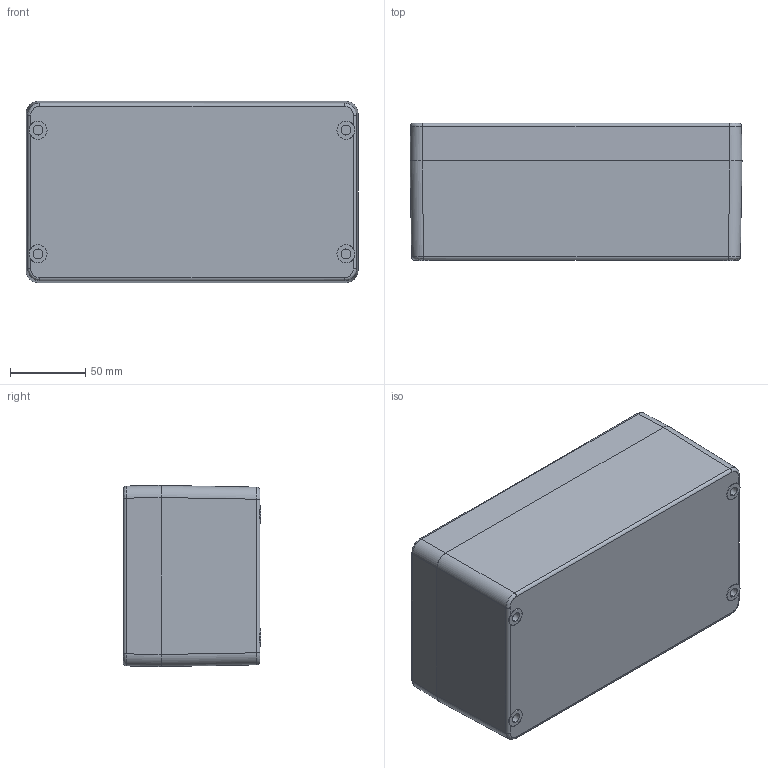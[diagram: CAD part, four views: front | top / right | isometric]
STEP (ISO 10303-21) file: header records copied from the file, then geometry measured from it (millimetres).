
FILE_DESCRIPTION (( 'STEP AP203' ), '1' );
FILE_NAME ('exe22012090.STEP', '2013-06-05T17:31:08', ( 'User' ), ( 'Pentair Inc' ), 'SwSTEP 2.0', 'SolidWorks 2010', '' );
FILE_SCHEMA (( 'CONFIG_CONTROL_DESIGN' ));
Length unit declared in the file: inch
Products named in the file (4): 89092768; 89092829; exe22012090; 89092785
Assembly tree (6 placements, depth 2):
  exe22012090
    89092768
    89092829  x4
    89092785
Bounding box: 220 x 91 x 120 mm (x, y, z)
Volume: 217657.6 mm3; surface area: 249547.4 mm2
Topology: 10 solids, 21 shells, 607 faces, 1540 edges, 976 vertices
Faces by surface type: cylinder 236, plane 235, cone 92, torus 24, bspline 20
Entity records: 15509 total; most frequent: CARTESIAN_POINT 4156, DIRECTION 2375, ORIENTED_EDGE 2190, EDGE_CURVE 1115, AXIS2_PLACEMENT_3D 905, VERTEX_POINT 718, LINE 565, VECTOR 565
